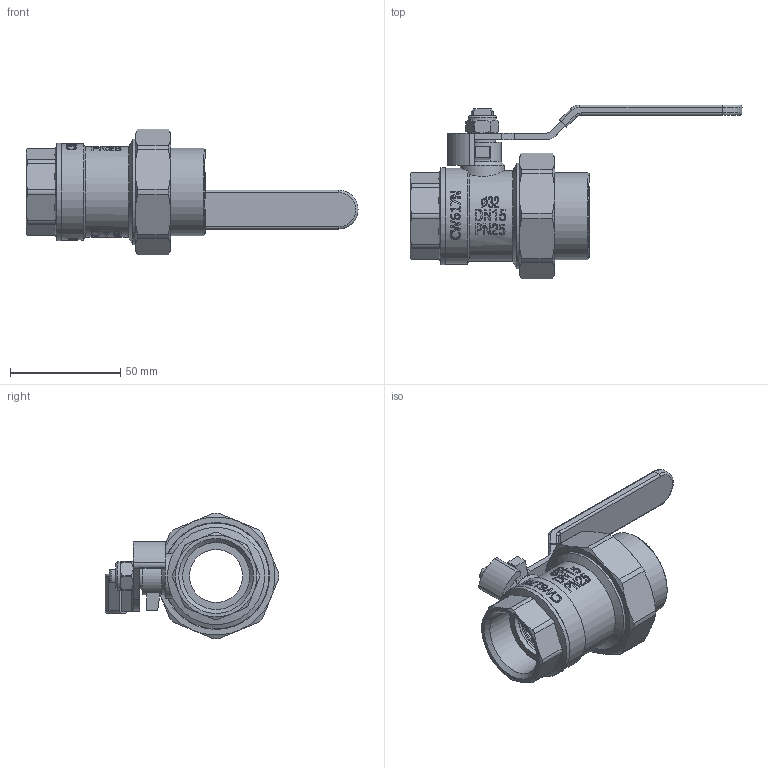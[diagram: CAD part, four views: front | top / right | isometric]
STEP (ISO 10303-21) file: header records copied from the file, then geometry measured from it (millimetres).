
FILE_DESCRIPTION(/* description */ (''),/* implementation_level */ '2;1');
FILE_NAME(/* name */ 'E:\Артём\00000\Работа удаленка\VTp.742\VTp.742.0.03206.stp',/* time_stamp */ '2020-04-09T12:08:23+03:00',/* author */ ('BeN_GaN'),/* organization */ (''),/* preprocessor_version */ 'ST-DEVELOPER v18',/* originating_system */ 'Autodesk Inventor 2020',/* authorisation */ '');
FILE_SCHEMA (('AUTOMOTIVE_DESIGN { 1 0 10303 214 3 1 1 }'));
Length unit declared in the file: millimetre
Products named in the file (1): VTp.742.0.03206
Bounding box: 150.39 x 78.81 x 56.99 mm (x, y, z)
Volume: 84409.7 mm3; surface area: 38349.5 mm2
Topology: 1 solids, 7 shells, 1214 faces, 3289 edges, 2202 vertices
Faces by surface type: plane 647, bspline 376, cylinder 122, cone 49, torus 19, sphere 1
Full cylindrical faces by diameter (mm): 9.4 x2, 12 x3, 12.8 x1, 17 x1, 20 x1, 24 x3, 24.1 x2, 25.5 x1, 29 x1, 30.3 x1, 32 x2, 38.5 x1, 39.5 x1, 41 x1, 42 x1, 43.5 x1, 44 x1, 47.8 x1
Entity records: 43832 total; most frequent: CARTESIAN_POINT 15539, ORIENTED_EDGE 6574, DIRECTION 4605, EDGE_CURVE 3287, VERTEX_POINT 2202, LINE 1901, VECTOR 1901, AXIS2_PLACEMENT_3D 1352
